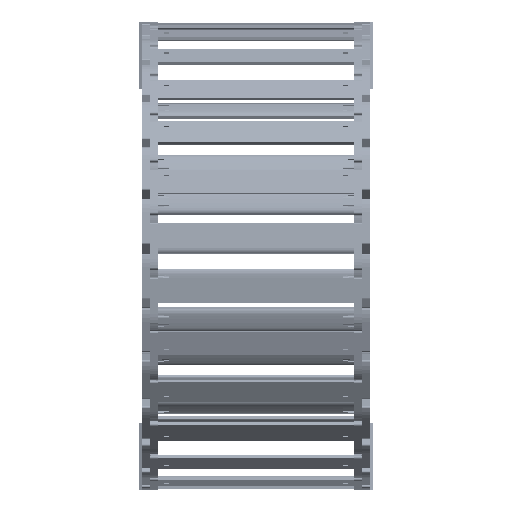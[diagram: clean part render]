
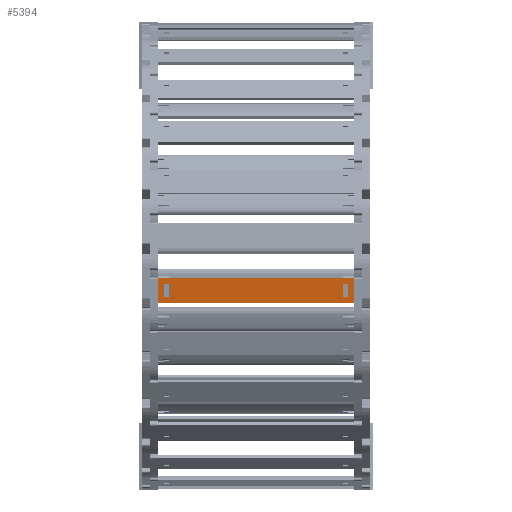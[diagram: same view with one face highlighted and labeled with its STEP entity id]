
A CAD part, left-side view. The second image highlights one B-rep face of the part: STEP entity #5394.
In plain terms, the highlighted planar face has unit normal (-0.989, 0, -0.146) as drawn and (0, 1, 0) by its records, which use the part's own axes.
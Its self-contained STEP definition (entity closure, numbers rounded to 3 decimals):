
#4814=DIRECTION('',(0.,0.,1.));
#4815=VECTOR('',#4814,15.8);
#4816=CARTESIAN_POINT('',(110.74,1.5,-7.9));
#4817=LINE('',#4816,#4815);
#4818=DIRECTION('',(-1.,0.,0.));
#4819=VECTOR('',#4818,125.5);
#4820=CARTESIAN_POINT('',(110.74,1.5,7.9));
#4821=LINE('',#4820,#4819);
#4822=DIRECTION('',(0.,0.,-1.));
#4823=VECTOR('',#4822,15.8);
#4824=CARTESIAN_POINT('',(-14.76,1.5,7.9));
#4825=LINE('',#4824,#4823);
#4826=DIRECTION('',(1.,0.,0.));
#4827=VECTOR('',#4826,3.648);
#4828=CARTESIAN_POINT('',(103.122,1.5,4.075));
#4829=LINE('',#4828,#4827);
#4830=DIRECTION('',(0.,0.,-1.));
#4831=VECTOR('',#4830,8.15);
#4832=CARTESIAN_POINT('',(106.77,1.5,4.075));
#4833=LINE('',#4832,#4831);
#4834=DIRECTION('',(-1.,0.,0.));
#4835=VECTOR('',#4834,3.648);
#4836=CARTESIAN_POINT('',(106.77,1.5,-4.075));
#4837=LINE('',#4836,#4835);
#4838=DIRECTION('',(0.,0.,-1.));
#4839=VECTOR('',#4838,8.15);
#4840=CARTESIAN_POINT('',(-7.142,1.5,4.075));
#4841=LINE('',#4840,#4839);
#4842=DIRECTION('',(-1.,0.,0.));
#4843=VECTOR('',#4842,3.648);
#4844=CARTESIAN_POINT('',(-7.142,1.5,-4.075));
#4845=LINE('',#4844,#4843);
#4846=DIRECTION('',(0.,0.,1.));
#4847=VECTOR('',#4846,8.15);
#4848=CARTESIAN_POINT('',(-10.79,1.5,-4.075));
#4849=LINE('',#4848,#4847);
#4850=DIRECTION('',(1.,0.,0.));
#4851=VECTOR('',#4850,3.648);
#4852=CARTESIAN_POINT('',(-10.79,1.5,4.075));
#4853=LINE('',#4852,#4851);
#4858=DIRECTION('',(-1.,0.,0.));
#4859=VECTOR('',#4858,125.5);
#4860=CARTESIAN_POINT('',(110.74,1.5,-7.9));
#4861=LINE('',#4860,#4859);
#4979=DIRECTION('',(0.,0.,-1.));
#4980=VECTOR('',#4979,8.15);
#4981=CARTESIAN_POINT('',(103.122,1.5,4.075));
#4982=LINE('',#4981,#4980);
#5164=CARTESIAN_POINT('',(106.77,1.5,4.075));
#5165=VERTEX_POINT('',#5164);
#5166=CARTESIAN_POINT('',(103.122,1.5,4.075));
#5167=VERTEX_POINT('',#5166);
#5208=CARTESIAN_POINT('',(103.122,1.5,-4.075));
#5209=VERTEX_POINT('',#5208);
#5210=CARTESIAN_POINT('',(106.77,1.5,-4.075));
#5211=VERTEX_POINT('',#5210);
#5212=CARTESIAN_POINT('',(110.74,1.5,7.9));
#5214=VERTEX_POINT('',#5212);
#5216=CARTESIAN_POINT('',(110.74,1.5,-7.9));
#5217=VERTEX_POINT('',#5216);
#5240=CARTESIAN_POINT('',(-7.142,1.5,4.075));
#5241=CARTESIAN_POINT('',(-7.142,1.5,-4.075));
#5242=VERTEX_POINT('',#5240);
#5243=VERTEX_POINT('',#5241);
#5244=CARTESIAN_POINT('',(-10.79,1.5,-4.075));
#5245=VERTEX_POINT('',#5244);
#5246=CARTESIAN_POINT('',(-10.79,1.5,4.075));
#5247=VERTEX_POINT('',#5246);
#5248=CARTESIAN_POINT('',(-14.76,1.5,7.9));
#5249=VERTEX_POINT('',#5248);
#5252=CARTESIAN_POINT('',(-14.76,1.5,-7.9));
#5253=VERTEX_POINT('',#5252);
#5363=CARTESIAN_POINT('',(142.48,1.5,10.061));
#5364=DIRECTION('',(0.,-1.,0.));
#5365=DIRECTION('',(0.,0.,-1.));
#5366=AXIS2_PLACEMENT_3D('',#5363,#5364,#5365);
#5367=PLANE('',#5366);
#5368=ORIENTED_EDGE('',*,*,#5302,.T.);
#5369=ORIENTED_EDGE('',*,*,#5328,.T.);
#5370=ORIENTED_EDGE('',*,*,#5341,.T.);
#5372=ORIENTED_EDGE('',*,*,#5371,.F.);
#5373=EDGE_LOOP('',(#5368,#5369,#5370,#5372));
#5374=FACE_OUTER_BOUND('',#5373,.F.);
#5376=ORIENTED_EDGE('',*,*,#5375,.F.);
#5377=ORIENTED_EDGE('',*,*,#5265,.T.);
#5379=ORIENTED_EDGE('',*,*,#5378,.T.);
#5381=ORIENTED_EDGE('',*,*,#5380,.T.);
#5382=EDGE_LOOP('',(#5376,#5377,#5379,#5381));
#5383=FACE_BOUND('',#5382,.F.);
#5385=ORIENTED_EDGE('',*,*,#5384,.T.);
#5387=ORIENTED_EDGE('',*,*,#5386,.T.);
#5389=ORIENTED_EDGE('',*,*,#5388,.T.);
#5391=ORIENTED_EDGE('',*,*,#5390,.T.);
#5392=EDGE_LOOP('',(#5385,#5387,#5389,#5391));
#5393=FACE_BOUND('',#5392,.F.);
#5394=ADVANCED_FACE('',(#5374,#5383,#5393),#5367,.F.);
#5265=EDGE_CURVE('',#5167,#5165,#4829,.T.);
#5302=EDGE_CURVE('',#5217,#5214,#4817,.T.);
#5328=EDGE_CURVE('',#5214,#5249,#4821,.T.);
#5341=EDGE_CURVE('',#5249,#5253,#4825,.T.);
#5371=EDGE_CURVE('',#5217,#5253,#4861,.T.);
#5375=EDGE_CURVE('',#5167,#5209,#4982,.T.);
#5378=EDGE_CURVE('',#5165,#5211,#4833,.T.);
#5380=EDGE_CURVE('',#5211,#5209,#4837,.T.);
#5384=EDGE_CURVE('',#5242,#5243,#4841,.T.);
#5386=EDGE_CURVE('',#5243,#5245,#4845,.T.);
#5388=EDGE_CURVE('',#5245,#5247,#4849,.T.);
#5390=EDGE_CURVE('',#5247,#5242,#4853,.T.);
